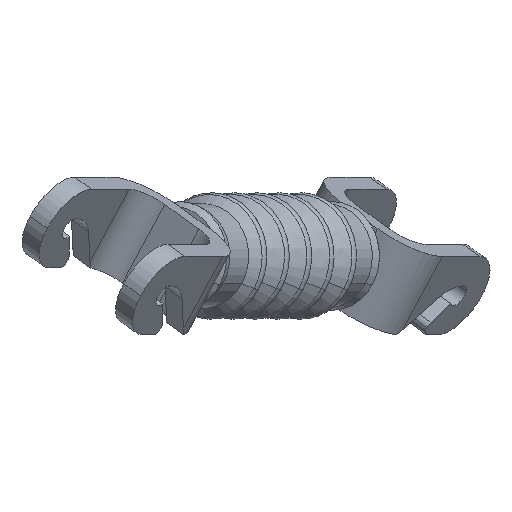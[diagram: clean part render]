
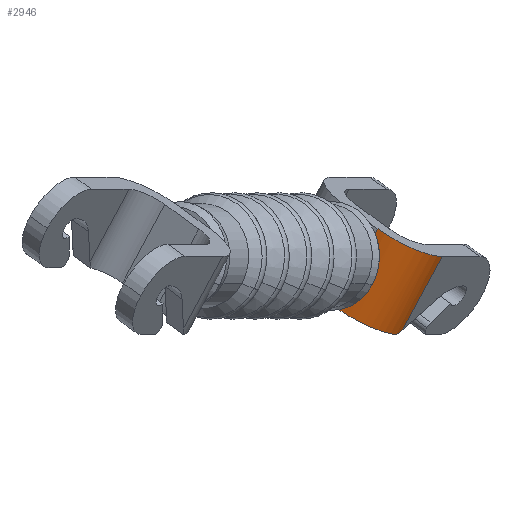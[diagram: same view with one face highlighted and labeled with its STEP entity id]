
A CAD part, left-side view. The second image highlights one B-rep face of the part: STEP entity #2946.
In plain terms, the highlighted cylindrical face has radius 9 mm (diameter 18 mm), a partial arc.
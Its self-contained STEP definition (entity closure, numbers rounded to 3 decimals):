
#58 = EDGE_CURVE ( 'NONE', #530, #203, #549, .T. ) ;
#87 = CARTESIAN_POINT ( 'NONE',  ( -274.722, -551.832, -309.339 ) ) ;
#129 = DIRECTION ( 'NONE',  ( -0.424, -0.735, -0.529 ) ) ;
#203 = VERTEX_POINT ( 'NONE', #1878 ) ;
#342 = DIRECTION ( 'NONE',  ( -0.264, -0.458, 0.849 ) ) ;
#520 =( BOUNDED_CURVE ( )  B_SPLINE_CURVE ( 3, ( #1051, #2268, #3080, #2088 ),
 .UNSPECIFIED., .F., .F. ) 
 B_SPLINE_CURVE_WITH_KNOTS ( ( 4, 4 ),
 ( 4.576, 4.712 ),
 .UNSPECIFIED. ) 
 CURVE ( )  GEOMETRIC_REPRESENTATION_ITEM ( )  RATIONAL_B_SPLINE_CURVE ( ( 1., 0.998, 0.998, 1. ) ) 
 REPRESENTATION_ITEM ( '' )  );
#530 = VERTEX_POINT ( 'NONE', #3454 ) ;
#549 = LINE ( 'NONE', #3930, #2958 ) ;
#685 = DIRECTION ( 'NONE',  ( 0.264, 0.458, -0.849 ) ) ;
#709 = VERTEX_POINT ( 'NONE', #2688 ) ;
#720 = FACE_OUTER_BOUND ( 'NONE', #2857, .T. ) ;
#746 = DIRECTION ( 'NONE',  ( 0.424, 0.735, 0.529 ) ) ;
#933 = DIRECTION ( 'NONE',  ( -0.424, -0.735, -0.529 ) ) ;
#971 = CARTESIAN_POINT ( 'NONE',  ( -282.516, -547.332, -309.339 ) ) ;
#1041 = DIRECTION ( 'NONE',  ( -0.264, -0.458, 0.849 ) ) ;
#1051 = CARTESIAN_POINT ( 'NONE',  ( -279.563, -557.776, -314.054 ) ) ;
#1053 = ORIENTED_EDGE ( 'NONE', *, *, #58, .T. ) ;
#1132 = ORIENTED_EDGE ( 'NONE', *, *, #3747, .T. ) ;
#1198 = DIRECTION ( 'NONE',  ( -0.264, -0.458, 0.849 ) ) ;
#1280 = LINE ( 'NONE', #971, #2124 ) ;
#1328 = CYLINDRICAL_SURFACE ( 'NONE', #1383, 9. ) ;
#1331 = EDGE_CURVE ( 'NONE', #3677, #2734, #1869, .T. ) ;
#1383 = AXIS2_PLACEMENT_3D ( 'NONE', #87, #1041, #746 ) ;
#1708 = CARTESIAN_POINT ( 'NONE',  ( -282.516, -547.332, -309.339 ) ) ;
#1869 = CIRCLE ( 'NONE', #2459, 9. ) ;
#1878 = CARTESIAN_POINT ( 'NONE',  ( -282.771, -565.773, -300.517 ) ) ;
#1957 = EDGE_CURVE ( 'NONE', #2734, #709, #1280, .T. ) ;
#1974 = ORIENTED_EDGE ( 'NONE', *, *, #1331, .F. ) ;
#1980 = CARTESIAN_POINT ( 'NONE',  ( -279.563, -557.776, -314.054 ) ) ;
#2088 = CARTESIAN_POINT ( 'NONE',  ( -278.864, -559.006, -313.062 ) ) ;
#2124 = VECTOR ( 'NONE', #342, 1000. ) ;
#2144 = CARTESIAN_POINT ( 'NONE',  ( -278.951, -559.158, -295.758 ) ) ;
#2268 = CARTESIAN_POINT ( 'NONE',  ( -279.343, -558.204, -313.739 ) ) ;
#2376 = ORIENTED_EDGE ( 'NONE', *, *, #3834, .T. ) ;
#2459 = AXIS2_PLACEMENT_3D ( 'NONE', #3405, #685, #129 ) ;
#2688 = CARTESIAN_POINT ( 'NONE',  ( -286.745, -554.658, -295.758 ) ) ;
#2698 = DIRECTION ( 'NONE',  ( 0.264, 0.458, -0.849 ) ) ;
#2734 = VERTEX_POINT ( 'NONE', #1708 ) ;
#2857 = EDGE_LOOP ( 'NONE', ( #1974, #1132, #1053, #2376, #3830 ) ) ;
#2946 = ADVANCED_FACE ( 'NONE', ( #720 ), #1328, .T. ) ;
#2958 = VECTOR ( 'NONE', #1198, 1000. ) ;
#3080 = CARTESIAN_POINT ( 'NONE',  ( -279.11, -558.615, -313.408 ) ) ;
#3238 = CIRCLE ( 'NONE', #3880, 9. ) ;
#3405 = CARTESIAN_POINT ( 'NONE',  ( -274.722, -551.832, -309.339 ) ) ;
#3454 = CARTESIAN_POINT ( 'NONE',  ( -278.864, -559.006, -313.062 ) ) ;
#3677 = VERTEX_POINT ( 'NONE', #1980 ) ;
#3747 = EDGE_CURVE ( 'NONE', #3677, #530, #520, .T. ) ;
#3830 = ORIENTED_EDGE ( 'NONE', *, *, #1957, .F. ) ;
#3834 = EDGE_CURVE ( 'NONE', #203, #709, #3238, .T. ) ;
#3880 = AXIS2_PLACEMENT_3D ( 'NONE', #2144, #2698, #933 ) ;
#3930 = CARTESIAN_POINT ( 'NONE',  ( -278.541, -558.448, -314.098 ) ) ;
